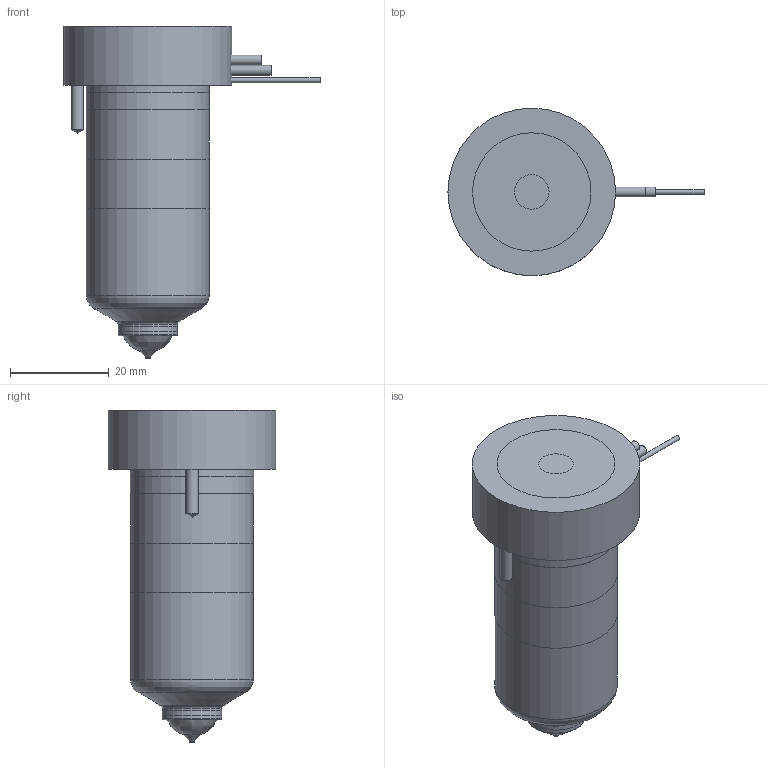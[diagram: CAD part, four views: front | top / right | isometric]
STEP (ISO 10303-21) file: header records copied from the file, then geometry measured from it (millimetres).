
FILE_DESCRIPTION(/* description */ (''),/* implementation_level */ '2;1');
FILE_NAME(/* name */ 'MXTT-MXIT16055_200C_b',/* time_stamp */ '2007-01-18T09:52:08+13:00',/* author */ (''),/* organization */ (''),/* preprocessor_version */ 'ST-DEVELOPER v9',/* originating_system */ 'UGS - NX 4.0',/* authorisation */ '');
FILE_SCHEMA (('CONFIG_CONTROL_DESIGN'));
Length unit declared in the file: millimetre
Products named in the file (1): MXTT-MXIT16055_200C_b
Bounding box: 51.95 x 34 x 67.35 mm (x, y, z)
Volume: 62178.7 mm3; surface area: 15130.5 mm2
Topology: 7 solids, 7 shells, 83 faces, 158 edges, 101 vertices
Faces by surface type: plane 35, cylinder 27, cone 11, torus 8, bspline 2
Full cylindrical faces by diameter (mm): 1 x4, 2 x2, 2.5 x2, 7 x1, 11.61 x1, 12.01 x2, 14.8 x1, 20.8 x1, 24.9 x2, 25 x2, 34 x1
Entity records: 2005 total; most frequent: CARTESIAN_POINT 414, DIRECTION 340, ORIENTED_EDGE 222, AXIS2_PLACEMENT_3D 157, EDGE_LOOP 132, EDGE_CURVE 111, VERTEX_POINT 92, ADVANCED_FACE 83
